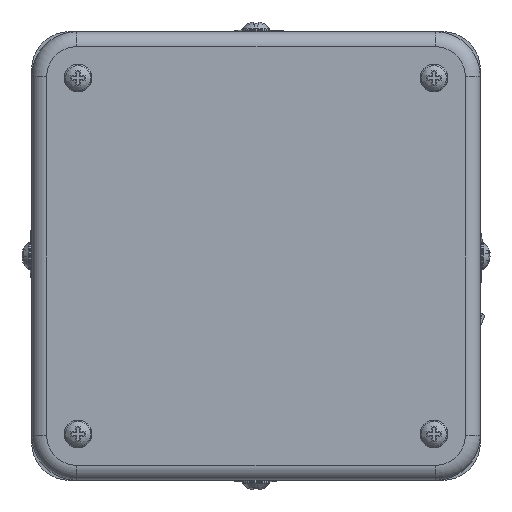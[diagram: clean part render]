
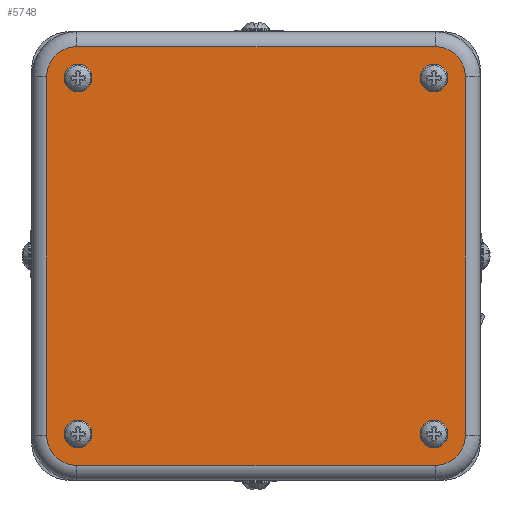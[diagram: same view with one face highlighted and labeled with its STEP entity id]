
A CAD part, left-side view. The second image highlights one B-rep face of the part: STEP entity #5748.
In plain terms, the highlighted planar face has unit normal (-1, 0, 0).
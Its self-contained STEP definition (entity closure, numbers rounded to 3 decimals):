
#2012=CARTESIAN_POINT('',(-108.076,-16.479,34.671));
#2013=VERTEX_POINT('',#2012);
#2014=CARTESIAN_POINT('',(-108.076,-16.479,37.471));
#2015=DIRECTION('',(1.0,0.0,0.0));
#2016=DIRECTION('',(0.0,0.0,1.0));
#2017=AXIS2_PLACEMENT_3D('',#2014,#2015,#2016);
#2018=CIRCLE('',#2017,2.8);
#2019=EDGE_CURVE('',#2013,#2013,#2018,.T.);
#2621=CARTESIAN_POINT('',(-108.076,-16.479,-36.747));
#2622=VERTEX_POINT('',#2621);
#2623=CARTESIAN_POINT('',(-108.076,-16.479,-33.947));
#2624=DIRECTION('',(1.0,0.0,0.0));
#2625=DIRECTION('',(0.0,0.0,1.0));
#2626=AXIS2_PLACEMENT_3D('',#2623,#2624,#2625);
#2627=CIRCLE('',#2626,2.8);
#2628=EDGE_CURVE('',#2622,#2622,#2627,.T.);
#5645=CARTESIAN_POINT('',(-108.076,12.203,-5.266));
#5646=DIRECTION('',(1.0,0.0,0.0));
#5647=DIRECTION('',(0.0,0.0,-1.0));
#5648=AXIS2_PLACEMENT_3D('',#5645,#5646,#5647);
#5649=PLANE('',#5648);
#5650=CARTESIAN_POINT('',(-108.076,-22.77,-34.238));
#5651=VERTEX_POINT('',#5650);
#5652=CARTESIAN_POINT('',(-108.076,-16.77,-40.238));
#5653=VERTEX_POINT('',#5652);
#5654=CARTESIAN_POINT('',(-108.076,-16.77,-34.238));
#5655=DIRECTION('',(1.0,0.,0.));
#5656=DIRECTION('',(0.,-0.707,-0.707));
#5657=AXIS2_PLACEMENT_3D('',#5654,#5655,#5656);
#5658=CIRCLE('',#5657,6.);
#5659=EDGE_CURVE('',#5651,#5653,#5658,.T.);
#5660=ORIENTED_EDGE('',*,*,#5659,.F.);
#5661=CARTESIAN_POINT('',(-108.076,-22.77,37.762));
#5662=VERTEX_POINT('',#5661);
#5663=CARTESIAN_POINT('',(-108.076,-22.77,37.762));
#5664=DIRECTION('',(0.0,0.0,-1.0));
#5665=VECTOR('',#5664,72.0);
#5666=LINE('',#5663,#5665);
#5667=EDGE_CURVE('',#5662,#5651,#5666,.T.);
#5668=ORIENTED_EDGE('',*,*,#5667,.F.);
#5669=CARTESIAN_POINT('',(-108.076,-16.77,43.762));
#5670=VERTEX_POINT('',#5669);
#5671=CARTESIAN_POINT('',(-108.076,-16.77,37.762));
#5672=DIRECTION('',(1.0,0.,0.));
#5673=DIRECTION('',(0.,-0.707,0.707));
#5674=AXIS2_PLACEMENT_3D('',#5671,#5672,#5673);
#5675=CIRCLE('',#5674,6.);
#5676=EDGE_CURVE('',#5670,#5662,#5675,.T.);
#5677=ORIENTED_EDGE('',*,*,#5676,.F.);
#5678=CARTESIAN_POINT('',(-108.076,55.23,43.762));
#5679=VERTEX_POINT('',#5678);
#5680=CARTESIAN_POINT('',(-108.076,55.23,43.762));
#5681=DIRECTION('',(0.0,-1.0,0.0));
#5682=VECTOR('',#5681,72.0);
#5683=LINE('',#5680,#5682);
#5684=EDGE_CURVE('',#5679,#5670,#5683,.T.);
#5685=ORIENTED_EDGE('',*,*,#5684,.F.);
#5686=CARTESIAN_POINT('',(-108.076,61.23,37.762));
#5687=VERTEX_POINT('',#5686);
#5688=CARTESIAN_POINT('',(-108.076,55.23,37.762));
#5689=DIRECTION('',(1.0,0.,0.));
#5690=DIRECTION('',(0.,0.707,0.707));
#5691=AXIS2_PLACEMENT_3D('',#5688,#5689,#5690);
#5692=CIRCLE('',#5691,6.);
#5693=EDGE_CURVE('',#5687,#5679,#5692,.T.);
#5694=ORIENTED_EDGE('',*,*,#5693,.F.);
#5695=CARTESIAN_POINT('',(-108.076,61.23,-34.238));
#5696=VERTEX_POINT('',#5695);
#5697=CARTESIAN_POINT('',(-108.076,61.23,-34.238));
#5698=DIRECTION('',(0.0,0.0,1.0));
#5699=VECTOR('',#5698,72.);
#5700=LINE('',#5697,#5699);
#5701=EDGE_CURVE('',#5696,#5687,#5700,.T.);
#5702=ORIENTED_EDGE('',*,*,#5701,.F.);
#5703=CARTESIAN_POINT('',(-108.076,55.23,-40.238));
#5704=VERTEX_POINT('',#5703);
#5705=CARTESIAN_POINT('',(-108.076,55.23,-34.238));
#5706=DIRECTION('',(1.0,0.,0.));
#5707=DIRECTION('',(0.,0.707,-0.707));
#5708=AXIS2_PLACEMENT_3D('',#5705,#5706,#5707);
#5709=CIRCLE('',#5708,6.);
#5710=EDGE_CURVE('',#5704,#5696,#5709,.T.);
#5711=ORIENTED_EDGE('',*,*,#5710,.F.);
#5712=CARTESIAN_POINT('',(-108.076,-16.77,-40.238));
#5713=DIRECTION('',(0.0,1.0,0.0));
#5714=VECTOR('',#5713,72.0);
#5715=LINE('',#5712,#5714);
#5716=EDGE_CURVE('',#5653,#5704,#5715,.T.);
#5717=ORIENTED_EDGE('',*,*,#5716,.F.);
#5718=EDGE_LOOP('',(#5660,#5668,#5677,#5685,#5694,#5702,#5711,#5717));
#5719=FACE_OUTER_BOUND('',#5718,.T.);
#5720=CARTESIAN_POINT('',(-108.076,54.939,34.671));
#5721=VERTEX_POINT('',#5720);
#5722=CARTESIAN_POINT('',(-108.076,54.939,37.471));
#5723=DIRECTION('',(1.0,0.0,0.0));
#5724=DIRECTION('',(0.0,0.0,1.0));
#5725=AXIS2_PLACEMENT_3D('',#5722,#5723,#5724);
#5726=CIRCLE('',#5725,2.8);
#5727=EDGE_CURVE('',#5721,#5721,#5726,.T.);
#5728=ORIENTED_EDGE('',*,*,#5727,.T.);
#5729=EDGE_LOOP('',(#5728));
#5730=FACE_BOUND('',#5729,.T.);
#5731=ORIENTED_EDGE('',*,*,#2019,.T.);
#5732=EDGE_LOOP('',(#5731));
#5733=FACE_BOUND('',#5732,.T.);
#5734=CARTESIAN_POINT('',(-108.076,54.939,-36.747));
#5735=VERTEX_POINT('',#5734);
#5736=CARTESIAN_POINT('',(-108.076,54.939,-33.947));
#5737=DIRECTION('',(1.0,0.0,0.0));
#5738=DIRECTION('',(0.0,0.0,1.0));
#5739=AXIS2_PLACEMENT_3D('',#5736,#5737,#5738);
#5740=CIRCLE('',#5739,2.8);
#5741=EDGE_CURVE('',#5735,#5735,#5740,.T.);
#5742=ORIENTED_EDGE('',*,*,#5741,.T.);
#5743=EDGE_LOOP('',(#5742));
#5744=FACE_BOUND('',#5743,.T.);
#5745=ORIENTED_EDGE('',*,*,#2628,.T.);
#5746=EDGE_LOOP('',(#5745));
#5747=FACE_BOUND('',#5746,.T.);
#5748=ADVANCED_FACE('',(#5719,#5730,#5733,#5744,#5747),#5649,.F.);
